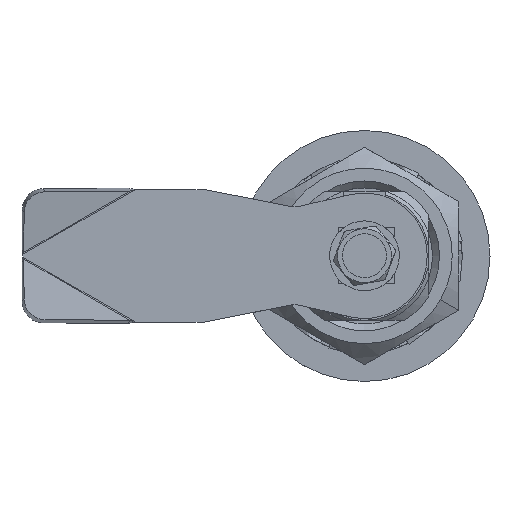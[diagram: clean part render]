
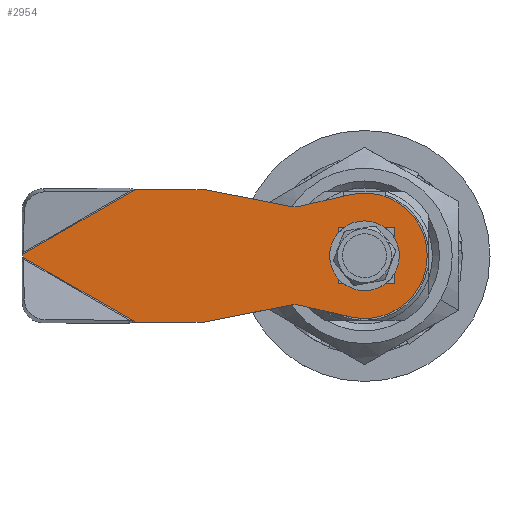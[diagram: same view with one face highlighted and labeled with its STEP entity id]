
A CAD part, top view. The second image highlights one B-rep face of the part: STEP entity #2954.
In plain terms, the highlighted planar face has unit normal (0, 0, 1) as drawn and (0, 0, -1) by its records, which use the part's own axes.
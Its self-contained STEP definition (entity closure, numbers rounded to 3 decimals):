
#1818 = VERTEX_POINT ( 'NONE', #5853 ) ;
#2307 = VERTEX_POINT ( 'NONE', #8333 ) ;
#2344 = VERTEX_POINT ( 'NONE', #8476 ) ;
#2352 = EDGE_CURVE ( 'NONE', #2344, #2593, #8512, .T. ) ;
#2400 = VERTEX_POINT ( 'NONE', #8352 ) ;
#2436 = EDGE_CURVE ( 'NONE', #2437, #2440, #8568, .T. ) ;
#2437 = VERTEX_POINT ( 'NONE', #8609 ) ;
#2440 = VERTEX_POINT ( 'NONE', #8564 ) ;
#2441 = EDGE_CURVE ( 'NONE', #2400, #2307, #8534, .T. ) ;
#2498 = VERTEX_POINT ( 'NONE', #8904 ) ;
#2581 = VERTEX_POINT ( 'NONE', #9049 ) ;
#2584 = EDGE_CURVE ( 'NONE', #2581, #2605, #9112, .T. ) ;
#2593 = VERTEX_POINT ( 'NONE', #9048 ) ;
#2605 = VERTEX_POINT ( 'NONE', #9025 ) ;
#2688 = EDGE_CURVE ( 'NONE', #2918, #2344, #9281, .T. ) ;
#2707 = EDGE_CURVE ( 'NONE', #2593, #2437, #9241, .T. ) ;
#2708 = VERTEX_POINT ( 'NONE', #9232 ) ;
#2711 = EDGE_CURVE ( 'NONE', #2914, #2870, #9533, .T. ) ;
#2746 = ORIENTED_EDGE ( 'NONE', *, *, #2963, .T. ) ;
#2759 = ORIENTED_EDGE ( 'NONE', *, *, #2847, .T. ) ;
#2768 = ORIENTED_EDGE ( 'NONE', *, *, #2584, .T. ) ;
#2769 = ORIENTED_EDGE ( 'NONE', *, *, #2776, .T. ) ;
#2770 = ORIENTED_EDGE ( 'NONE', *, *, #2900, .T. ) ;
#2776 = EDGE_CURVE ( 'NONE', #2870, #2837, #12613, .T. ) ;
#2837 = VERTEX_POINT ( 'NONE', #12256 ) ;
#2846 = EDGE_CURVE ( 'NONE', #2708, #2914, #12297, .T. ) ;
#2847 = EDGE_CURVE ( 'NONE', #2837, #2708, #12275, .T. ) ;
#2857 = EDGE_CURVE ( 'NONE', #2307, #2498, #12269, .T. ) ;
#2860 = EDGE_CURVE ( 'NONE', #2498, #2918, #12299, .T. ) ;
#2870 = VERTEX_POINT ( 'NONE', #12273 ) ;
#2893 = EDGE_CURVE ( 'NONE', #2440, #2917, #12313, .T. ) ;
#2894 = ORIENTED_EDGE ( 'NONE', *, *, #2893, .T. ) ;
#2900 = EDGE_CURVE ( 'NONE', #2917, #2581, #12492, .T. ) ;
#2914 = VERTEX_POINT ( 'NONE', #12364 ) ;
#2917 = VERTEX_POINT ( 'NONE', #12446 ) ;
#2918 = VERTEX_POINT ( 'NONE', #12445 ) ;
#2923 = ORIENTED_EDGE ( 'NONE', *, *, #2846, .T. ) ;
#2928 = EDGE_LOOP ( 'NONE', ( #2923, #2931, #2769, #2759 ) ) ;
#2931 = ORIENTED_EDGE ( 'NONE', *, *, #2711, .T. ) ;
#2932 = ORIENTED_EDGE ( 'NONE', *, *, #2952, .T. ) ;
#2935 = ORIENTED_EDGE ( 'NONE', *, *, #2352, .T. ) ;
#2939 = EDGE_LOOP ( 'NONE', ( #2944, #2932, #2942, #2945, #2947, #2955, #2935, #2950, #2949, #2894, #2770, #2768, #2746 ) ) ;
#2942 = ORIENTED_EDGE ( 'NONE', *, *, #2441, .T. ) ;
#2944 = ORIENTED_EDGE ( 'NONE', *, *, #2965, .T. ) ;
#2945 = ORIENTED_EDGE ( 'NONE', *, *, #2857, .T. ) ;
#2947 = ORIENTED_EDGE ( 'NONE', *, *, #2860, .T. ) ;
#2949 = ORIENTED_EDGE ( 'NONE', *, *, #2436, .T. ) ;
#2950 = ORIENTED_EDGE ( 'NONE', *, *, #2707, .T. ) ;
#2952 = EDGE_CURVE ( 'NONE', #1818, #2400, #10577, .T. ) ;
#2954 = ADVANCED_FACE ( 'NONE', ( #10595, #10564 ), #10616, .T. ) ;
#2955 = ORIENTED_EDGE ( 'NONE', *, *, #2688, .T. ) ;
#2963 = EDGE_CURVE ( 'NONE', #2605, #2966, #10569, .T. ) ;
#2965 = EDGE_CURVE ( 'NONE', #2966, #1818, #10587, .T. ) ;
#2966 = VERTEX_POINT ( 'NONE', #10591 ) ;
#5853 = CARTESIAN_POINT ( 'NONE',  ( 32.885, 9.5, 0. ) ) ;
#8333 = CARTESIAN_POINT ( 'NONE',  ( 49., -0.196, 0. ) ) ;
#8352 = CARTESIAN_POINT ( 'NONE',  ( 49., 0.196, 0. ) ) ;
#8476 = CARTESIAN_POINT ( 'NONE',  ( 10.481, -7.047, 0. ) ) ;
#8505 = DIRECTION ( 'NONE',  ( -1., 0., 0. ) ) ;
#8506 = DIRECTION ( 'NONE',  ( 0., 0., 1. ) ) ;
#8507 = CARTESIAN_POINT ( 'NONE',  ( 10., -9.5, 0. ) ) ;
#8508 = AXIS2_PLACEMENT_3D ( 'NONE', #8507, #8506, #8505 ) ;
#8512 = CIRCLE ( 'NONE', #8508, 2.5 ) ;
#8531 = DIRECTION ( 'NONE',  ( 0., -1., 0. ) ) ;
#8532 = VECTOR ( 'NONE', #8531, 1000. ) ;
#8533 = CARTESIAN_POINT ( 'NONE',  ( 49., 6.5, 0. ) ) ;
#8534 = LINE ( 'NONE', #8533, #8532 ) ;
#8564 = CARTESIAN_POINT ( 'NONE',  ( -9., 0., 0. ) ) ;
#8568 = CIRCLE ( 'NONE', #8580, 9. ) ;
#8579 = CARTESIAN_POINT ( 'NONE',  ( 0., 0., 0. ) ) ;
#8580 = AXIS2_PLACEMENT_3D ( 'NONE', #8579, #8584, #8583 ) ;
#8583 = DIRECTION ( 'NONE',  ( -1., 0., 0. ) ) ;
#8584 = DIRECTION ( 'NONE',  ( 0., 0., -1. ) ) ;
#8609 = CARTESIAN_POINT ( 'NONE',  ( 2.018, -8.771, 0. ) ) ;
#8904 = CARTESIAN_POINT ( 'NONE',  ( 32.885, -9.5, 0. ) ) ;
#9025 = CARTESIAN_POINT ( 'NONE',  ( 10.481, 7.047, 0. ) ) ;
#9046 = AXIS2_PLACEMENT_3D ( 'NONE', #9064, #9108, #9107 ) ;
#9048 = CARTESIAN_POINT ( 'NONE',  ( 9.44, -7.064, 0. ) ) ;
#9049 = CARTESIAN_POINT ( 'NONE',  ( 9.44, 7.064, 0. ) ) ;
#9064 = CARTESIAN_POINT ( 'NONE',  ( 10., 9.5, 0. ) ) ;
#9107 = DIRECTION ( 'NONE',  ( -1., 0., 0. ) ) ;
#9108 = DIRECTION ( 'NONE',  ( 0., 0., 1. ) ) ;
#9112 = CIRCLE ( 'NONE', #9046, 2.5 ) ;
#9229 = DIRECTION ( 'NONE',  ( -0.975, -0.224, 0. ) ) ;
#9230 = VECTOR ( 'NONE', #9229, 1000. ) ;
#9232 = CARTESIAN_POINT ( 'NONE',  ( 3.7, 4., 0. ) ) ;
#9233 = CARTESIAN_POINT ( 'NONE',  ( 9.44, -7.064, 0. ) ) ;
#9241 = LINE ( 'NONE', #9233, #9230 ) ;
#9255 = VECTOR ( 'NONE', #9260, 1000. ) ;
#9260 = DIRECTION ( 'NONE',  ( -0.981, 0.192, 0. ) ) ;
#9261 = CARTESIAN_POINT ( 'NONE',  ( 23., -9.5, 0. ) ) ;
#9281 = LINE ( 'NONE', #9261, #9255 ) ;
#9531 = VECTOR ( 'NONE', #9596, 1000. ) ;
#9532 = CARTESIAN_POINT ( 'NONE',  ( -4.3, -9.5, 0. ) ) ;
#9533 = LINE ( 'NONE', #9532, #9531 ) ;
#9596 = DIRECTION ( 'NONE',  ( 0., -1., 0. ) ) ;
#10564 = FACE_BOUND ( 'NONE', #2928, .T. ) ;
#10568 = CARTESIAN_POINT ( 'NONE',  ( 10.481, 7.047, 0. ) ) ;
#10569 = LINE ( 'NONE', #10568, #10586 ) ;
#10572 = DIRECTION ( 'NONE',  ( 0.866, -0.5, 0. ) ) ;
#10573 = CARTESIAN_POINT ( 'NONE',  ( 32.885, 9.5, 0. ) ) ;
#10577 = LINE ( 'NONE', #10573, #10609 ) ;
#10585 = DIRECTION ( 'NONE',  ( 0.981, 0.192, 0. ) ) ;
#10586 = VECTOR ( 'NONE', #10585, 1000. ) ;
#10587 = LINE ( 'NONE', #10589, #10588 ) ;
#10588 = VECTOR ( 'NONE', #10621, 1000. ) ;
#10589 = CARTESIAN_POINT ( 'NONE',  ( 10., 9.5, 0. ) ) ;
#10591 = CARTESIAN_POINT ( 'NONE',  ( 23., 9.5, 0. ) ) ;
#10592 = DIRECTION ( 'NONE',  ( 0., 0., -1. ) ) ;
#10595 = FACE_OUTER_BOUND ( 'NONE', #2939, .T. ) ;
#10596 = CARTESIAN_POINT ( 'NONE',  ( 10., -9.5, 0. ) ) ;
#10609 = VECTOR ( 'NONE', #10572, 1000. ) ;
#10610 = AXIS2_PLACEMENT_3D ( 'NONE', #10596, #10592, #10615 ) ;
#10615 = DIRECTION ( 'NONE',  ( -1., 0., 0. ) ) ;
#10616 = PLANE ( 'NONE',  #10610 ) ;
#10621 = DIRECTION ( 'NONE',  ( 1., 0., 0. ) ) ;
#12237 = DIRECTION ( 'NONE',  ( -1., 0., 0. ) ) ;
#12238 = DIRECTION ( 'NONE',  ( 0., 0., -1. ) ) ;
#12239 = CARTESIAN_POINT ( 'NONE',  ( 0., 0., 0. ) ) ;
#12248 = AXIS2_PLACEMENT_3D ( 'NONE', #12239, #12238, #12237 ) ;
#12256 = CARTESIAN_POINT ( 'NONE',  ( 3.7, -4., 0. ) ) ;
#12262 = DIRECTION ( 'NONE',  ( -1., 0., 0. ) ) ;
#12263 = VECTOR ( 'NONE', #12262, 1000. ) ;
#12265 = VECTOR ( 'NONE', #12267, 1000. ) ;
#12267 = DIRECTION ( 'NONE',  ( -0.866, -0.5, 0. ) ) ;
#12268 = CARTESIAN_POINT ( 'NONE',  ( 49., -0.196, 0. ) ) ;
#12269 = LINE ( 'NONE', #12268, #12265 ) ;
#12272 = DIRECTION ( 'NONE',  ( 0., 1., 0. ) ) ;
#12273 = CARTESIAN_POINT ( 'NONE',  ( -4.3, -4., 0. ) ) ;
#12274 = CARTESIAN_POINT ( 'NONE',  ( 3.7, -9.5, 0. ) ) ;
#12275 = LINE ( 'NONE', #12274, #12293 ) ;
#12293 = VECTOR ( 'NONE', #12272, 1000. ) ;
#12294 = DIRECTION ( 'NONE',  ( -1., 0., 0. ) ) ;
#12295 = VECTOR ( 'NONE', #12294, 1000. ) ;
#12296 = CARTESIAN_POINT ( 'NONE',  ( 10., 4., 0. ) ) ;
#12297 = LINE ( 'NONE', #12296, #12295 ) ;
#12298 = CARTESIAN_POINT ( 'NONE',  ( 10., -9.5, 0. ) ) ;
#12299 = LINE ( 'NONE', #12298, #12263 ) ;
#12313 = CIRCLE ( 'NONE', #12248, 9. ) ;
#12364 = CARTESIAN_POINT ( 'NONE',  ( -4.3, 4., 0. ) ) ;
#12367 = DIRECTION ( 'NONE',  ( 0.975, -0.224, 0. ) ) ;
#12445 = CARTESIAN_POINT ( 'NONE',  ( 23., -9.5, 0. ) ) ;
#12446 = CARTESIAN_POINT ( 'NONE',  ( 2.018, 8.771, 0. ) ) ;
#12492 = LINE ( 'NONE', #12510, #12514 ) ;
#12510 = CARTESIAN_POINT ( 'NONE',  ( 2.018, 8.771, 0. ) ) ;
#12514 = VECTOR ( 'NONE', #12367, 1000. ) ;
#12613 = LINE ( 'NONE', #12650, #12645 ) ;
#12644 = DIRECTION ( 'NONE',  ( 1., 0., 0. ) ) ;
#12645 = VECTOR ( 'NONE', #12644, 1000. ) ;
#12650 = CARTESIAN_POINT ( 'NONE',  ( 10., -4., 0. ) ) ;
